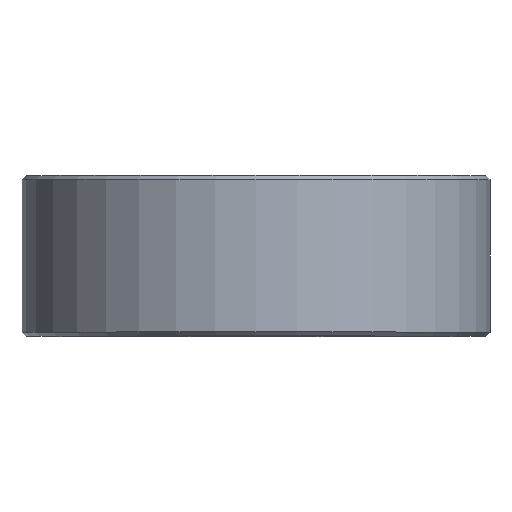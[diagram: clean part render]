
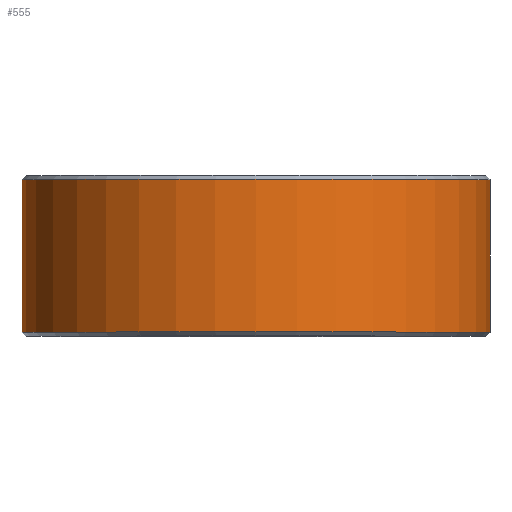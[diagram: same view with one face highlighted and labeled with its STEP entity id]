
A CAD part, top view. The second image highlights one B-rep face of the part: STEP entity #555.
In plain terms, the highlighted cylindrical face has radius 11.65 mm (diameter 23.3 mm), a partial arc.
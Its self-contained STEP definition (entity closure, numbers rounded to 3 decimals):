
#59=DIRECTION('',(0.,-1.,0.));
#60=VECTOR('',#59,7.6);
#61=CARTESIAN_POINT('',(-11.65,7.8,0.));
#62=LINE('',#61,#60);
#96=CARTESIAN_POINT('',(0.,0.2,0.));
#97=DIRECTION('',(0.,-1.,0.));
#98=DIRECTION('',(1.,0.,0.));
#99=AXIS2_PLACEMENT_3D('',#96,#97,#98);
#101=CARTESIAN_POINT('',(0.,7.8,0.));
#102=DIRECTION('',(0.,1.,0.));
#103=DIRECTION('',(-1.,0.,0.));
#104=AXIS2_PLACEMENT_3D('',#101,#102,#103);
#106=DIRECTION('',(0.,-1.,0.));
#107=VECTOR('',#106,7.6);
#108=CARTESIAN_POINT('',(11.65,7.8,0.));
#109=LINE('',#108,#107);
#422=CARTESIAN_POINT('',(11.65,7.8,0.));
#423=VERTEX_POINT('',#422);
#424=CARTESIAN_POINT('',(-11.65,7.8,0.));
#425=VERTEX_POINT('',#424);
#426=CARTESIAN_POINT('',(11.65,0.2,0.));
#427=VERTEX_POINT('',#426);
#428=CARTESIAN_POINT('',(-11.65,0.2,0.));
#429=VERTEX_POINT('',#428);
#543=CARTESIAN_POINT('',(0.,0.,0.));
#544=DIRECTION('',(0.,1.,0.));
#545=DIRECTION('',(1.,0.,0.));
#546=AXIS2_PLACEMENT_3D('',#543,#544,#545);
#547=CYLINDRICAL_SURFACE('',#546,11.65);
#548=ORIENTED_EDGE('',*,*,#491,.T.);
#549=ORIENTED_EDGE('',*,*,#522,.F.);
#551=ORIENTED_EDGE('',*,*,#550,.T.);
#552=ORIENTED_EDGE('',*,*,#518,.T.);
#553=EDGE_LOOP('',(#548,#549,#551,#552));
#554=FACE_OUTER_BOUND('',#553,.F.);
#555=ADVANCED_FACE('',(#554),#547,.T.);
#100=CIRCLE('',#99,11.65);
#105=CIRCLE('',#104,11.65);
#491=EDGE_CURVE('',#427,#429,#100,.T.);
#518=EDGE_CURVE('',#423,#427,#109,.T.);
#522=EDGE_CURVE('',#425,#429,#62,.T.);
#550=EDGE_CURVE('',#425,#423,#105,.T.);
